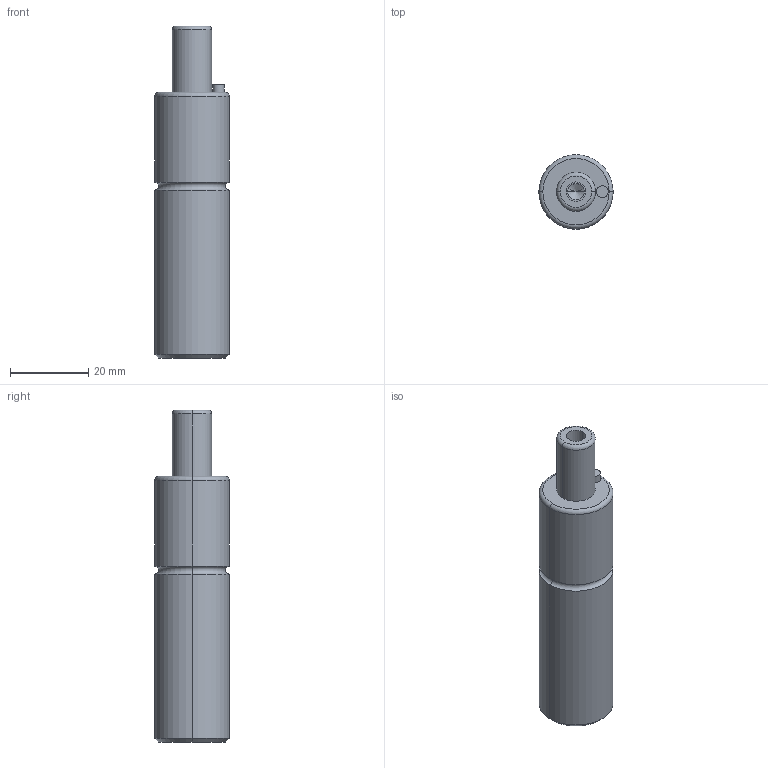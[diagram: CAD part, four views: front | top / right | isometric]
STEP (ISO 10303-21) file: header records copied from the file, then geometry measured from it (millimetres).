
FILE_DESCRIPTION(/* description */ (''),/* implementation_level */ '2;1');
FILE_NAME(/* name */ '3d_gsm19-15_03944_r00.stp',/* time_stamp */ '2011-01-10T14:15:18+09:00',/* author */ ('MISUMI'),/* organization */ (''),/* preprocessor_version */ 'ST-DEVELOPER v11',/* originating_system */ 'UGS - NX 5.0',/* authorisation */ '');
FILE_SCHEMA (('CONFIG_CONTROL_DESIGN'));
Length unit declared in the file: millimetre
Products named in the file (1): 3d_gsm19-15_03944_r00
Bounding box: 19 x 19 x 85 mm (x, y, z)
Volume: 20051.5 mm3; surface area: 5476.9 mm2
Topology: 1 solids, 1 shells, 34 faces, 70 edges, 40 vertices
Faces by surface type: cylinder 16, cone 6, plane 6, torus 6
Entity records: 964 total; most frequent: DIRECTION 180, CARTESIAN_POINT 141, ORIENTED_EDGE 132, AXIS2_PLACEMENT_3D 79, EDGE_CURVE 66, CIRCLE 44, EDGE_LOOP 40, VERTEX_POINT 40
